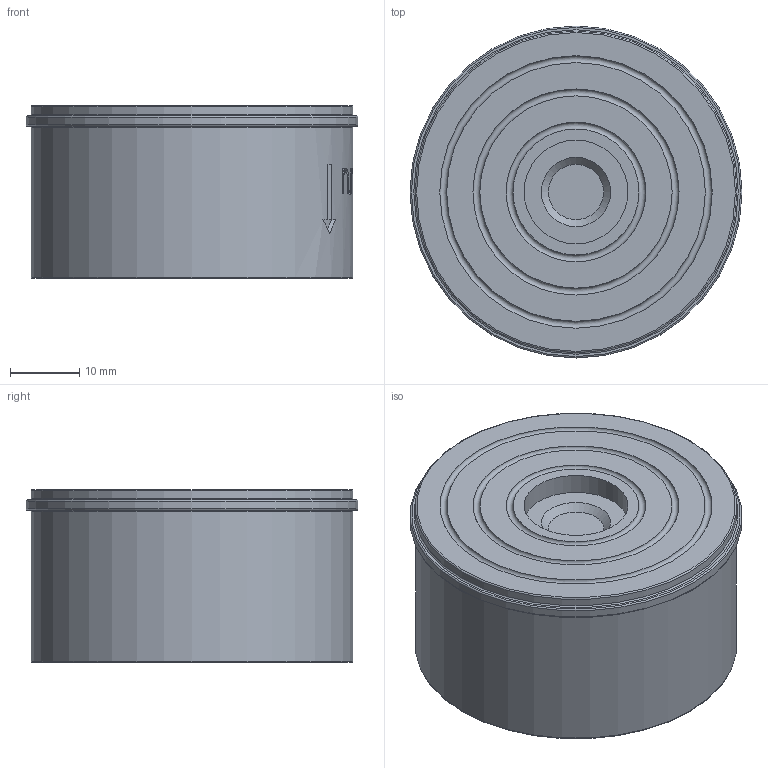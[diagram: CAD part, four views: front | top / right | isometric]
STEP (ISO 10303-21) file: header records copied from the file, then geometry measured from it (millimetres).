
FILE_DESCRIPTION(('STEP AP214'), '1');
FILE_NAME('VCS3232-Fb 孰囡囗 钺疣蝽 DN.ru 捏15 畜40', '', ('UNSPECIFIED'), ('UNSPECIFIED'), 'C3D Converter', 'C3D Toolkit', '');
FILE_SCHEMA(('AUTOMOTIVE_DESIGN { 1 0 10303 214 3 1 1}'));
Length unit declared in the file: millimetre
Products named in the file (1): VCS3232-Fb
Bounding box: 48 x 48 x 25 mm (x, y, z)
Volume: 12999.3 mm3; surface area: 15085.7 mm2
Topology: 2 solids, 2 shells, 139 faces, 334 edges, 220 vertices
Faces by surface type: plane 68, cylinder 30, extrusion 28, torus 11, bspline 1, cone 1
Full cylindrical faces by diameter (mm): 5 x1, 5.2 x1, 15 x1, 18 x1, 21 x1, 27.98 x1, 30 x1, 33.98 x1, 34 x1, 42.75 x1, 46.5 x2, 48 x1
Entity records: 8669 total; most frequent: CARTESIAN_POINT 4782, ORIENTED_EDGE 616, DIRECTION 590, EDGE_CURVE 308, VERTEX_POINT 220, AXIS2_PLACEMENT_3D 219, EDGE_LOOP 196, VECTOR 152
